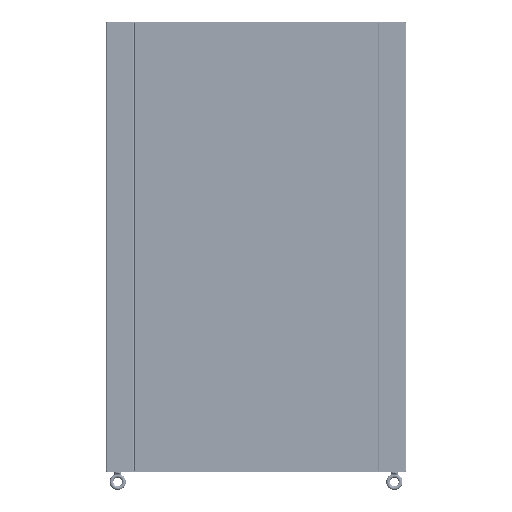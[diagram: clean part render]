
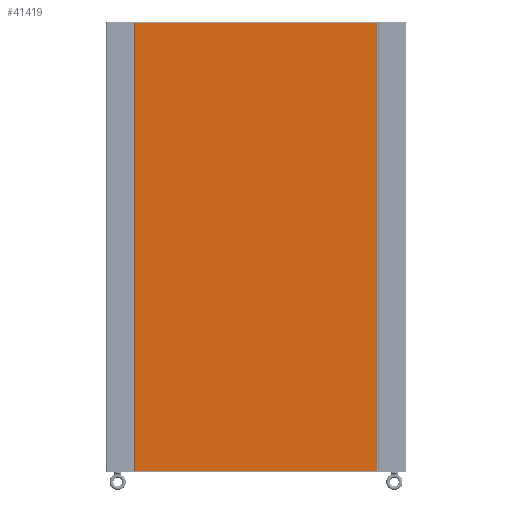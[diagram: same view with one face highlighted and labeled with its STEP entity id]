
A CAD part, left-side view. The second image highlights one B-rep face of the part: STEP entity #41419.
In plain terms, the highlighted planar face has unit normal (-1, 0, 0) as drawn and (0, 0, -1) by its records, which use the part's own axes.
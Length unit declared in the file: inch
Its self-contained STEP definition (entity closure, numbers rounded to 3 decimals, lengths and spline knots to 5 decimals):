
#40440=DIRECTION('',(0.,-1.,0.));
#40441=VECTOR('',#40440,71.792);
#40442=CARTESIAN_POINT('',(-19.311,35.896,-0.104));
#40443=LINE('',#40442,#40441);
#40630=DIRECTION('',(0.,1.,0.));
#40631=VECTOR('',#40630,71.792);
#40632=CARTESIAN_POINT('',(19.311,-35.896,-0.104));
#40633=LINE('',#40632,#40631);
#40791=DIRECTION('',(-1.,0.,0.));
#40792=VECTOR('',#40791,38.622);
#40793=CARTESIAN_POINT('',(19.311,35.896,-0.104));
#40794=LINE('',#40793,#40792);
#40798=DIRECTION('',(1.,0.,0.));
#40799=VECTOR('',#40798,38.622);
#40800=CARTESIAN_POINT('',(-19.311,-35.896,-0.104));
#40801=LINE('',#40800,#40799);
#40809=CARTESIAN_POINT('',(-19.311,-35.896,-0.104));
#40810=VERTEX_POINT('',#40809);
#40811=CARTESIAN_POINT('',(-19.311,35.896,-0.104));
#40812=VERTEX_POINT('',#40811);
#40825=CARTESIAN_POINT('',(19.311,35.896,-0.104));
#40826=VERTEX_POINT('',#40825);
#40827=CARTESIAN_POINT('',(19.311,-35.896,-0.104));
#40828=VERTEX_POINT('',#40827);
#41408=CARTESIAN_POINT('',(0.,0.,-0.104));
#41409=DIRECTION('',(0.,0.,1.));
#41410=DIRECTION('',(1.,0.,0.));
#41411=AXIS2_PLACEMENT_3D('',#41408,#41409,#41410);
#41412=PLANE('',#41411);
#41413=ORIENTED_EDGE('',*,*,#40900,.T.);
#41414=ORIENTED_EDGE('',*,*,#40945,.T.);
#41415=ORIENTED_EDGE('',*,*,#41159,.T.);
#41416=ORIENTED_EDGE('',*,*,#41203,.T.);
#41417=EDGE_LOOP('',(#41413,#41414,#41415,#41416));
#41418=FACE_OUTER_BOUND('',#41417,.F.);
#40900=EDGE_CURVE('',#40826,#40812,#40794,.T.);
#40945=EDGE_CURVE('',#40812,#40810,#40443,.T.);
#41159=EDGE_CURVE('',#40810,#40828,#40801,.T.);
#41203=EDGE_CURVE('',#40828,#40826,#40633,.T.);
#41419=ADVANCED_FACE('',(#41418),#41412,.F.);
